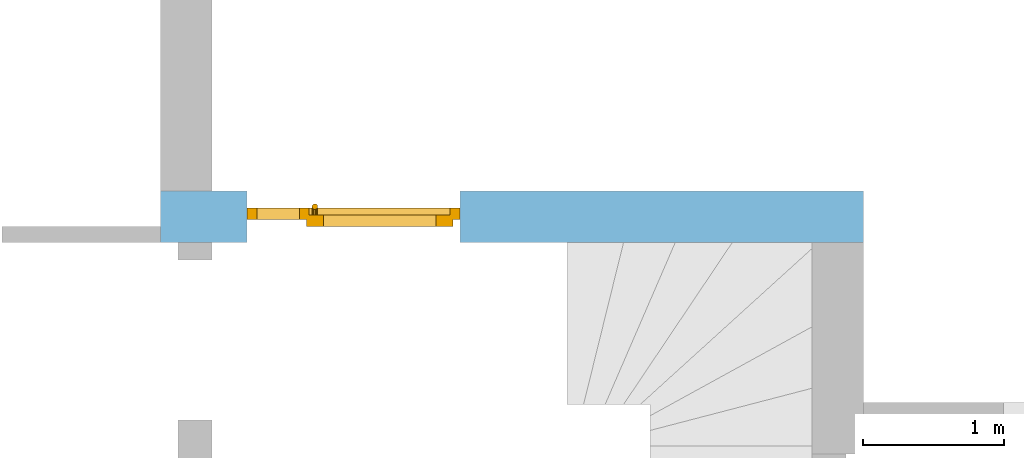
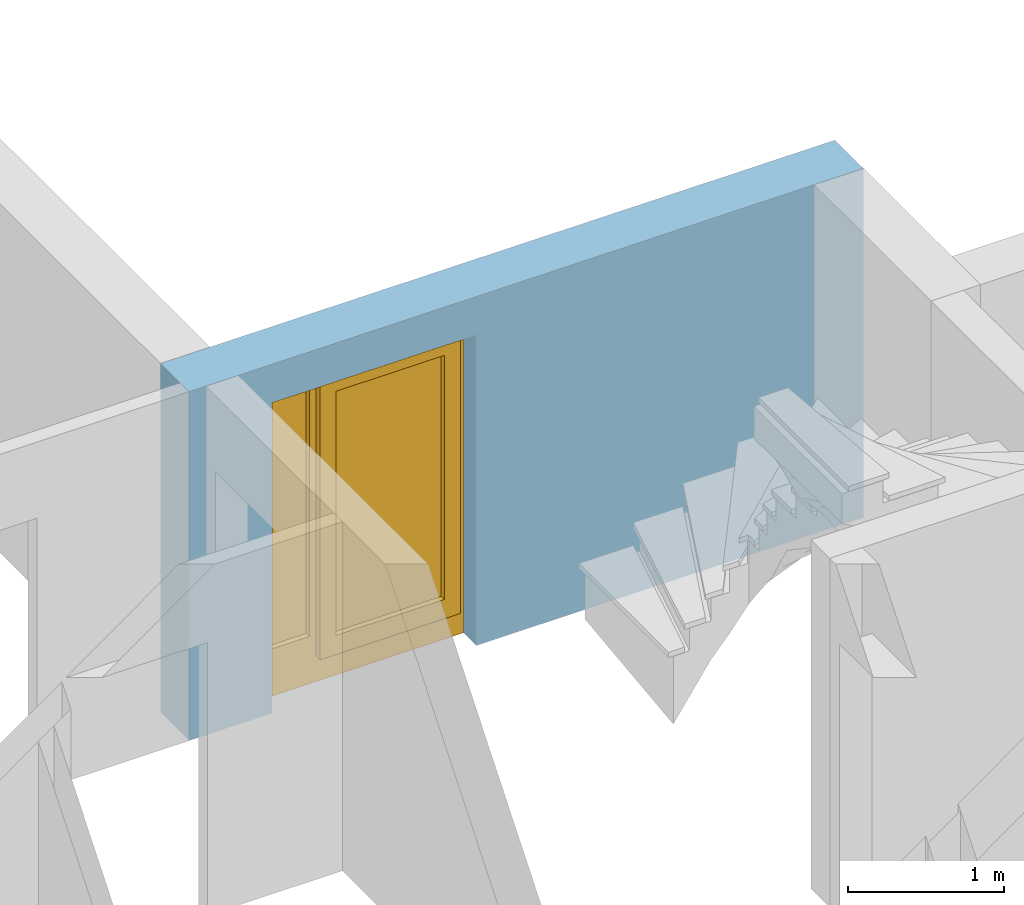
# One storey, part 20 of 41: 1 door, 1 opening, plus 1 element that does not belong to this part.
"""IFC2X3 building model written with IfcOpenShell, lengths in millimetres."""

from ifc_helpers import new_model, entity, si_unit, converted_unit, frame, frame_2d, origin, origin_with_axes, place, context, subcontext, project, spatial, rectangle, extrude, faceted_brep, material, layer, layer_set, layer_usage, type_object, element, fill, save


model = new_model("IFC2X3")

# Units and contexts
model_context = context("Model", 3, precision=1e-05, world=origin())
body_context = subcontext(model_context, "Body", "Model", "MODEL_VIEW")
ifc_project = project(units=[si_unit("LENGTHUNIT", "METRE", prefix="MILLI"), converted_unit("PLANEANGLEUNIT", "DEGREE", entity("IfcPlaneAngleMeasure", 0.0174532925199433), si_unit("PLANEANGLEUNIT", "RADIAN"), dimensions=[0, 0, 0, 0, 0, 0, 0]), si_unit("AREAUNIT", "SQUARE_METRE"), si_unit("VOLUMEUNIT", "CUBIC_METRE")], contexts=[model_context])

# Building, storey
building_placement = place(None, origin())
building = spatial("IfcBuilding", under=ifc_project, at=building_placement, Name="Gebäude", CompositionType="ELEMENT")
storey_placement = place(building_placement, frame((0.0, 0.0, -200.0), z_axis=(0.0, 0.0, 1.0), x_axis=(1.0, 0.0, 0.0)))
storey = spatial("IfcBuildingStorey", under=building, at=storey_placement, Name="EG.- Grundriss", CompositionType="ELEMENT", Elevation=-200.0)

# Wall, opening, door
ifc_material_1 = material(Name="Poroton")
ifc_layer = layer(ifc_material_1, 365.0000000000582)
ifc_layer_set = layer_set([ifc_layer])
ifc_layer_usage = layer_usage(ifc_layer_set, "AXIS2", "POSITIVE", 0.0)
wall_placement = place(storey_placement, frame((164367.7928067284, 136274.8877324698, 0.0), z_axis=(0.0, 0.0, 1.0), x_axis=(-1.0, 0.0, 0.0)))
wall = element("IfcWallStandardCase", 1, at=wall_placement, inside=storey, material=ifc_layer_usage, Name="<Unnamed Element>", context=body_context, shape_type="SweptSolid", body=[
    extrude(rectangle(XDim=4990.000000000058, YDim=365.0000000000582, at=frame_2d((2495.000000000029, 182.5000000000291), x_axis=(1.0, 0.0))), origin_with_axes(), (0.0, 0.0, 1.0), 2730.0),
])
opening_placement = place(wall_placement, frame((2865.000000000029, 0.0, 0.0), z_axis=(0.0, 1.0, 0.0), x_axis=(0.0, 0.0, 1.0)))
opening = element("IfcOpeningElement", 2, at=opening_placement, cuts=wall, Name="Türöffnung", ObjectType="Opening", context=body_context, shape_type="SweptSolid", body=[
    extrude(rectangle(XDim=2430.0, YDim=1510.0, at=frame_2d((1215.0, 755.0), x_axis=(1.0, 0.0))), origin_with_axes(), (0.0, 0.0, 1.0), 365.0000000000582),
])
ifc_material_2 = material()
door_style = type_object("IfcDoorStyle", Name="Tür", ConstructionType="NOTDEFINED", OperationType="USERDEFINED", ParameterTakesPrecedence=False, Sizeable=False)
door_placement = place(opening_placement, frame((0.0, 0.0, 0.0), z_axis=(1.0, 0.0, 0.0), x_axis=(0.0, 1.0, 0.0)))
door = element("IfcDoor", 3, at=door_placement, inside=storey, type_object=door_style, material=ifc_material_2, Name="Tür", OverallHeight=2430.0, OverallWidth=1510.0, context=body_context, shape_type="Brep", body=[
    faceted_brep([(9.797174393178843e-15, 200.0000000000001, 2430.0), (9.797174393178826e-15, 200.0, -2.449293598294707e-15), (70.00000000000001, 200.0, -2.449293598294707e-15), (70.00000000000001, 200.0000000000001, 2430.0), (0.0, 120.0, 2.449293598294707e-15), (1.740327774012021e-29, 120.0000000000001, 2430.0), (70.0, 120.0000000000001, 2430.0), (70.0, 120.0, 2.449293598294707e-15), (9.797174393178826e-15, 200.0, -2.449293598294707e-15), (9.797174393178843e-15, 200.0000000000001, 2430.0), (1.740327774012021e-29, 120.0000000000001, 2430.0), (0.0, 120.0, 2.449293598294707e-15), (70.00000000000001, 200.0, -2.449293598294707e-15), (9.797174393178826e-15, 200.0, -2.449293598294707e-15), (0.0, 120.0, 2.449293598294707e-15), (70.0, 120.0, 2.449293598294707e-15), (70.00000000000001, 200.0000000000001, 2430.0), (70.00000000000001, 200.0, -2.449293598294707e-15), (70.0, 120.0, 2.449293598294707e-15), (70.0, 120.0000000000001, 2430.0), (9.797174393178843e-15, 200.0000000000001, 2430.0), (70.00000000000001, 200.0000000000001, 2430.0), (70.0, 120.0000000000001, 2430.0), (1.740327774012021e-29, 120.0000000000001, 2430.0)], [[[0, 1, 2, 3]], [[4, 5, 6, 7]], [[8, 9, 10, 11]], [[12, 13, 14, 15]], [[16, 17, 18, 19]], [[20, 21, 22, 23]]], orient=[[False], [False], [False], [False], [False], [False]]),
    faceted_brep([(1440.0, 200.0, 2430.0), (1440.0, 199.9999999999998, -2.449293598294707e-15), (1510.0, 199.9999999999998, -2.449293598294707e-15), (1510.0, 199.9999999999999, 2430.0), (1440.0, 119.9999999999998, 2.449293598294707e-15), (1440.0, 120.0, 2430.0), (1510.0, 120.0, 2430.0), (1510.0, 119.9999999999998, 2.449293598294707e-15), (1440.0, 199.9999999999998, -2.449293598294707e-15), (1440.0, 200.0, 2430.0), (1440.0, 120.0, 2430.0), (1440.0, 119.9999999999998, 2.449293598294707e-15), (1510.0, 199.9999999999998, -2.449293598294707e-15), (1440.0, 199.9999999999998, -2.449293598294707e-15), (1440.0, 119.9999999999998, 2.449293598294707e-15), (1510.0, 119.9999999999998, 2.449293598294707e-15), (1510.0, 199.9999999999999, 2430.0), (1510.0, 199.9999999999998, -2.449293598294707e-15), (1510.0, 119.9999999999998, 2.449293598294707e-15), (1510.0, 120.0, 2430.0), (1440.0, 200.0, 2430.0), (1510.0, 199.9999999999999, 2430.0), (1510.0, 120.0, 2430.0), (1440.0, 120.0, 2430.0)], [[[0, 1, 2, 3]], [[4, 5, 6, 7]], [[8, 9, 10, 11]], [[12, 13, 14, 15]], [[16, 17, 18, 19]], [[20, 21, 22, 23]]], orient=[[False], [False], [False], [False], [False], [False]]),
    faceted_brep([(70.00000000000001, 200.0, 220.0), (70.00000000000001, 200.0, -2.449293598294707e-15), (1440.0, 199.9999999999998, -2.449293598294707e-15), (1440.0, 199.9999999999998, 220.0), (70.0, 120.0, 2.449293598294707e-15), (70.0, 120.0, 220.0), (1440.0, 119.9999999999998, 220.0), (1440.0, 119.9999999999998, 2.449293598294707e-15), (70.00000000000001, 200.0, -2.449293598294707e-15), (70.00000000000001, 200.0, 220.0), (70.0, 120.0, 220.0), (70.0, 120.0, 2.449293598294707e-15), (1440.0, 199.9999999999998, -2.449293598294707e-15), (70.00000000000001, 200.0, -2.449293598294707e-15), (70.0, 120.0, 2.449293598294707e-15), (1440.0, 119.9999999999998, 2.449293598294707e-15), (1440.0, 199.9999999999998, 220.0), (1440.0, 199.9999999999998, -2.449293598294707e-15), (1440.0, 119.9999999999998, 2.449293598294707e-15), (1440.0, 119.9999999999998, 220.0), (70.00000000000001, 200.0, 220.0), (1440.0, 199.9999999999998, 220.0), (1440.0, 119.9999999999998, 220.0), (70.0, 120.0, 220.0)], [[[0, 1, 2, 3]], [[4, 5, 6, 7]], [[8, 9, 10, 11]], [[12, 13, 14, 15]], [[16, 17, 18, 19]], [[20, 21, 22, 23]]], orient=[[False], [False], [False], [False], [False], [False]]),
    faceted_brep([(70.00000000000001, 200.0000000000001, 2430.000000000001), (70.00000000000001, 200.0000000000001, 2360.000000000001), (1440.0, 200.0, 2360.000000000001), (1440.0, 200.0, 2430.000000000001), (70.0, 120.0000000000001, 2360.000000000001), (70.0, 120.0000000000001, 2430.000000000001), (1440.0, 120.0, 2430.000000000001), (1440.0, 120.0, 2360.000000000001), (70.00000000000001, 200.0000000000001, 2360.000000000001), (70.00000000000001, 200.0000000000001, 2430.000000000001), (70.0, 120.0000000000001, 2430.000000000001), (70.0, 120.0000000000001, 2360.000000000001), (1440.0, 200.0, 2360.000000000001), (70.00000000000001, 200.0000000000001, 2360.000000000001), (70.0, 120.0000000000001, 2360.000000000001), (1440.0, 120.0, 2360.000000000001), (1440.0, 200.0, 2430.000000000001), (1440.0, 200.0, 2360.000000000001), (1440.0, 120.0, 2360.000000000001), (1440.0, 120.0, 2430.000000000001), (70.00000000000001, 200.0000000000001, 2430.000000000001), (1440.0, 200.0, 2430.000000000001), (1440.0, 120.0, 2430.000000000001), (70.0, 120.0000000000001, 2430.000000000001)], [[[0, 1, 2, 3]], [[4, 5, 6, 7]], [[8, 9, 10, 11]], [[12, 13, 14, 15]], [[16, 17, 18, 19]], [[20, 21, 22, 23]]], orient=[[False], [False], [False], [False], [False], [False]]),
    faceted_brep([(1070.0, 200.0, 2360.0), (1070.0, 199.9999999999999, 220.0), (1140.0, 199.9999999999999, 220.0), (1140.0, 200.0, 2360.0), (1070.0, 119.9999999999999, 220.0), (1070.0, 120.0, 2360.0), (1140.0, 120.0, 2360.0), (1140.0, 119.9999999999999, 220.0), (1070.0, 199.9999999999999, 220.0), (1070.0, 200.0, 2360.0), (1070.0, 120.0, 2360.0), (1070.0, 119.9999999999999, 220.0), (1140.0, 199.9999999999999, 220.0), (1070.0, 199.9999999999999, 220.0), (1070.0, 119.9999999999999, 220.0), (1140.0, 119.9999999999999, 220.0), (1140.0, 200.0, 2360.0), (1140.0, 199.9999999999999, 220.0), (1140.0, 119.9999999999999, 220.0), (1140.0, 120.0, 2360.0), (1070.0, 200.0, 2360.0), (1140.0, 200.0, 2360.0), (1140.0, 120.0, 2360.0), (1070.0, 120.0, 2360.0)], [[[0, 1, 2, 3]], [[4, 5, 6, 7]], [[8, 9, 10, 11]], [[12, 13, 14, 15]], [[16, 17, 18, 19]], [[20, 21, 22, 23]]], orient=[[False], [False], [False], [False], [False], [False]]),
    faceted_brep([(50.00000000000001, 250.0000000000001, 2380.0), (50.00000000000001, 250.0, 200.0), (170.0, 250.0, 200.0), (170.0, 250.0000000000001, 2380.0), (50.00000000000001, 170.0, 200.0), (50.00000000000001, 170.0000000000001, 2380.0), (170.0, 170.0000000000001, 2380.0), (170.0, 170.0, 200.0), (50.00000000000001, 250.0, 200.0), (50.00000000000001, 250.0000000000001, 2380.0), (50.00000000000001, 170.0000000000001, 2380.0), (50.00000000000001, 170.0, 200.0), (170.0, 250.0, 200.0), (50.00000000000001, 250.0, 200.0), (50.00000000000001, 170.0, 200.0), (170.0, 170.0, 200.0), (170.0, 250.0000000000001, 2380.0), (170.0, 250.0, 200.0), (170.0, 170.0, 200.0), (170.0, 170.0000000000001, 2380.0), (50.00000000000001, 250.0000000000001, 2380.0), (170.0, 250.0000000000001, 2380.0), (170.0, 170.0000000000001, 2380.0), (50.00000000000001, 170.0000000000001, 2380.0)], [[[0, 1, 2, 3]], [[4, 5, 6, 7]], [[8, 9, 10, 11]], [[12, 13, 14, 15]], [[16, 17, 18, 19]], [[20, 21, 22, 23]]], orient=[[False], [False], [False], [False], [False], [False]]),
    faceted_brep([(970.0, 250.0, 2380.0), (970.0, 249.9999999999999, 200.0), (1090.0, 249.9999999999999, 200.0), (1090.0, 250.0, 2380.0), (970.0, 169.9999999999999, 200.0), (970.0, 170.0, 2380.0), (1090.0, 170.0, 2380.0), (1090.0, 169.9999999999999, 200.0), (970.0, 249.9999999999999, 200.0), (970.0, 250.0, 2380.0), (970.0, 170.0, 2380.0), (970.0, 169.9999999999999, 200.0), (1090.0, 249.9999999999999, 200.0), (970.0, 249.9999999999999, 200.0), (970.0, 169.9999999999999, 200.0), (1090.0, 169.9999999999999, 200.0), (1090.0, 250.0, 2380.0), (1090.0, 249.9999999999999, 200.0), (1090.0, 169.9999999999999, 200.0), (1090.0, 170.0, 2380.0), (970.0, 250.0, 2380.0), (1090.0, 250.0, 2380.0), (1090.0, 170.0, 2380.0), (970.0, 170.0, 2380.0)], [[[0, 1, 2, 3]], [[4, 5, 6, 7]], [[8, 9, 10, 11]], [[12, 13, 14, 15]], [[16, 17, 18, 19]], [[20, 21, 22, 23]]], orient=[[False], [False], [False], [False], [False], [False]]),
    faceted_brep([(170.0, 250.0, 350.0), (170.0, 250.0, 200.0), (970.0, 249.9999999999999, 200.0), (970.0, 249.9999999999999, 350.0), (170.0, 170.0, 200.0), (170.0, 170.0, 350.0), (970.0, 169.9999999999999, 350.0), (970.0, 169.9999999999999, 200.0), (170.0, 250.0, 200.0), (170.0, 250.0, 350.0), (170.0, 170.0, 350.0), (170.0, 170.0, 200.0), (970.0, 249.9999999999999, 200.0), (170.0, 250.0, 200.0), (170.0, 170.0, 200.0), (970.0, 169.9999999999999, 200.0), (970.0, 249.9999999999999, 350.0), (970.0, 249.9999999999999, 200.0), (970.0, 169.9999999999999, 200.0), (970.0, 169.9999999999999, 350.0), (170.0, 250.0, 350.0), (970.0, 249.9999999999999, 350.0), (970.0, 169.9999999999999, 350.0), (170.0, 170.0, 350.0)], [[[0, 1, 2, 3]], [[4, 5, 6, 7]], [[8, 9, 10, 11]], [[12, 13, 14, 15]], [[16, 17, 18, 19]], [[20, 21, 22, 23]]], orient=[[False], [False], [False], [False], [False], [False]]),
    faceted_brep([(170.0, 250.0000000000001, 2380.0), (170.0, 250.0000000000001, 2260.0), (970.0, 250.0, 2260.0), (970.0, 250.0, 2380.0), (170.0, 170.0000000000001, 2260.0), (170.0, 170.0000000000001, 2380.0), (970.0, 170.0, 2380.0), (970.0, 170.0, 2260.0), (170.0, 250.0000000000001, 2260.0), (170.0, 250.0000000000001, 2380.0), (170.0, 170.0000000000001, 2380.0), (170.0, 170.0000000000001, 2260.0), (970.0, 250.0, 2260.0), (170.0, 250.0000000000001, 2260.0), (170.0, 170.0000000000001, 2260.0), (970.0, 170.0, 2260.0), (970.0, 250.0, 2380.0), (970.0, 250.0, 2260.0), (970.0, 170.0, 2260.0), (970.0, 170.0, 2380.0), (170.0, 250.0000000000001, 2380.0), (970.0, 250.0, 2380.0), (970.0, 170.0, 2380.0), (170.0, 170.0000000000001, 2380.0)], [[[0, 1, 2, 3]], [[4, 5, 6, 7]], [[8, 9, 10, 11]], [[12, 13, 14, 15]], [[16, 17, 18, 19]], [[20, 21, 22, 23]]], orient=[[False], [False], [False], [False], [False], [False]]),
    faceted_brep([(1050.0, 170.0, 1920.0), (1047.320508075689, 170.0, 1930.0), (1040.0, 170.0, 1937.320508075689), (1030.0, 170.0, 1940.0), (1020.0, 170.0, 1937.320508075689), (1012.679491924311, 170.0, 1930.0), (1010.0, 170.0, 1920.0), (1012.679491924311, 170.0, 1910.0), (1020.0, 170.0, 1902.679491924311), (1030.0, 170.0, 1900.0), (1040.0, 170.0, 1902.679491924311), (1047.320508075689, 170.0, 1910.0), (1050.0, 170.0, 1920.0), (1050.0, 110.0, 1920.0), (1047.320508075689, 99.99999999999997, 1930.0), (1047.320508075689, 170.0, 1930.0), (1047.320508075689, 170.0, 1930.0), (1047.320508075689, 99.99999999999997, 1930.0), (1040.0, 92.67949192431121, 1937.320508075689), (1040.0, 170.0, 1937.320508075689), (1040.0, 170.0, 1937.320508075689), (1040.0, 92.67949192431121, 1937.320508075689), (1030.0, 89.99999999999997, 1940.0), (1030.0, 170.0, 1940.0), (1030.0, 170.0, 1940.0), (1030.0, 89.99999999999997, 1940.0), (1020.0, 92.67949192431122, 1937.320508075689), (1020.0, 170.0, 1937.320508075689), (1020.0, 170.0, 1937.320508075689), (1020.0, 92.67949192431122, 1937.320508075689), (1012.679491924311, 99.99999999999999, 1930.0), (1012.679491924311, 170.0, 1930.0), (1012.679491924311, 170.0, 1930.0), (1012.679491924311, 99.99999999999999, 1930.0), (1010.0, 110.0, 1920.0), (1010.0, 170.0, 1920.0), (1010.0, 170.0, 1920.0), (1010.0, 110.0, 1920.0), (1012.679491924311, 120.0, 1910.0), (1012.679491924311, 170.0, 1910.0), (1012.679491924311, 170.0, 1910.0), (1012.679491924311, 120.0, 1910.0), (1020.0, 127.3205080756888, 1902.679491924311), (1020.0, 170.0, 1902.679491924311), (1020.0, 170.0, 1902.679491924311), (1020.0, 127.3205080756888, 1902.679491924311), (1030.0, 130.0, 1900.0), (1030.0, 170.0, 1900.0), (1030.0, 170.0, 1900.0), (1030.0, 130.0, 1900.0), (1040.0, 127.3205080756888, 1902.679491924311), (1040.0, 170.0, 1902.679491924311), (1040.0, 170.0, 1902.679491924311), (1040.0, 127.3205080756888, 1902.679491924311), (1047.320508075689, 120.0, 1910.0), (1047.320508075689, 170.0, 1910.0), (1047.320508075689, 170.0, 1910.0), (1047.320508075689, 120.0, 1910.0), (1050.0, 110.0, 1920.0), (1050.0, 170.0, 1920.0), (1050.0, 110.0, 1920.0), (1050.0, 109.9999999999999, 620.0), (1047.320508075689, 99.99999999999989, 610.0), (1047.320508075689, 99.99999999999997, 1930.0), (1047.320508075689, 99.99999999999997, 1930.0), (1047.320508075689, 99.99999999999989, 610.0), (1040.0, 92.67949192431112, 602.6794919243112), (1040.0, 92.67949192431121, 1937.320508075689), (1040.0, 92.67949192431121, 1937.320508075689), (1040.0, 92.67949192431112, 602.6794919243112), (1030.0, 89.99999999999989, 600.0), (1030.0, 89.99999999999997, 1940.0), (1030.0, 89.99999999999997, 1940.0), (1030.0, 89.99999999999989, 600.0), (1020.0, 92.67949192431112, 602.6794919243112), (1020.0, 92.67949192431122, 1937.320508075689), (1020.0, 92.67949192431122, 1937.320508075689), (1020.0, 92.67949192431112, 602.6794919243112), (1012.679491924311, 99.99999999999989, 610.0), (1012.679491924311, 99.99999999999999, 1930.0), (1012.679491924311, 99.99999999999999, 1930.0), (1012.679491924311, 99.99999999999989, 610.0), (1010.0, 109.9999999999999, 620.0), (1010.0, 110.0, 1920.0), (1010.0, 110.0, 1920.0), (1010.0, 109.9999999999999, 620.0), (1012.679491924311, 119.9999999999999, 630.0), (1012.679491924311, 120.0, 1910.0), (1012.679491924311, 120.0, 1910.0), (1012.679491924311, 119.9999999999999, 630.0), (1020.0, 127.3205080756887, 637.3205080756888), (1020.0, 127.3205080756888, 1902.679491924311), (1020.0, 127.3205080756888, 1902.679491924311), (1020.0, 127.3205080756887, 637.3205080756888), (1030.0, 129.9999999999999, 640.0), (1030.0, 130.0, 1900.0), (1030.0, 130.0, 1900.0), (1030.0, 129.9999999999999, 640.0), (1040.0, 127.3205080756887, 637.3205080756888), (1040.0, 127.3205080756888, 1902.679491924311), (1040.0, 127.3205080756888, 1902.679491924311), (1040.0, 127.3205080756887, 637.3205080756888), (1047.320508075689, 119.9999999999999, 630.0), (1047.320508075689, 120.0, 1910.0), (1047.320508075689, 120.0, 1910.0), (1047.320508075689, 119.9999999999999, 630.0), (1050.0, 109.9999999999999, 620.0), (1050.0, 110.0, 1920.0), (1050.0, 169.9999999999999, 620.0), (1047.320508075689, 169.9999999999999, 630.0), (1040.0, 169.9999999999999, 637.3205080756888), (1030.0, 169.9999999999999, 640.0), (1020.0, 169.9999999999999, 637.3205080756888), (1012.679491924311, 169.9999999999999, 630.0), (1010.0, 169.9999999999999, 620.0), (1012.679491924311, 169.9999999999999, 610.0), (1020.0, 169.9999999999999, 602.6794919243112), (1030.0, 169.9999999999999, 600.0), (1040.0, 169.9999999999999, 602.6794919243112), (1047.320508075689, 169.9999999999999, 610.0), (1050.0, 109.9999999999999, 620.0), (1050.0, 169.9999999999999, 620.0), (1047.320508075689, 169.9999999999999, 610.0), (1047.320508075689, 99.99999999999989, 610.0), (1047.320508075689, 99.99999999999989, 610.0), (1047.320508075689, 169.9999999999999, 610.0), (1040.0, 169.9999999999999, 602.6794919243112), (1040.0, 92.67949192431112, 602.6794919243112), (1040.0, 92.67949192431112, 602.6794919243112), (1040.0, 169.9999999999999, 602.6794919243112), (1030.0, 169.9999999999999, 600.0), (1030.0, 89.99999999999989, 600.0), (1030.0, 89.99999999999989, 600.0), (1030.0, 169.9999999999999, 600.0), (1020.0, 169.9999999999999, 602.6794919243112), (1020.0, 92.67949192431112, 602.6794919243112), (1020.0, 92.67949192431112, 602.6794919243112), (1020.0, 169.9999999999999, 602.6794919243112), (1012.679491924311, 169.9999999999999, 610.0), (1012.679491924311, 99.99999999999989, 610.0), (1012.679491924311, 99.99999999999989, 610.0), (1012.679491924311, 169.9999999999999, 610.0), (1010.0, 169.9999999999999, 620.0), (1010.0, 109.9999999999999, 620.0), (1010.0, 109.9999999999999, 620.0), (1010.0, 169.9999999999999, 620.0), (1012.679491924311, 169.9999999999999, 630.0), (1012.679491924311, 119.9999999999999, 630.0), (1012.679491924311, 119.9999999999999, 630.0), (1012.679491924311, 169.9999999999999, 630.0), (1020.0, 169.9999999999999, 637.3205080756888), (1020.0, 127.3205080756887, 637.3205080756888), (1020.0, 127.3205080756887, 637.3205080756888), (1020.0, 169.9999999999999, 637.3205080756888), (1030.0, 169.9999999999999, 640.0), (1030.0, 129.9999999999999, 640.0), (1030.0, 129.9999999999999, 640.0), (1030.0, 169.9999999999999, 640.0), (1040.0, 169.9999999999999, 637.3205080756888), (1040.0, 127.3205080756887, 637.3205080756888), (1040.0, 127.3205080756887, 637.3205080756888), (1040.0, 169.9999999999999, 637.3205080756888), (1047.320508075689, 169.9999999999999, 630.0), (1047.320508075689, 119.9999999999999, 630.0), (1047.320508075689, 119.9999999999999, 630.0), (1047.320508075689, 169.9999999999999, 630.0), (1050.0, 169.9999999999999, 620.0), (1050.0, 109.9999999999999, 620.0)], [[[0, 1, 2, 3, 4, 5, 6, 7, 8, 9, 10, 11]], [[12, 13, 14, 15]], [[16, 17, 18, 19]], [[20, 21, 22, 23]], [[24, 25, 26, 27]], [[28, 29, 30, 31]], [[32, 33, 34, 35]], [[36, 37, 38, 39]], [[40, 41, 42, 43]], [[44, 45, 46, 47]], [[48, 49, 50, 51]], [[52, 53, 54, 55]], [[56, 57, 58, 59]], [[60, 61, 62, 63]], [[64, 65, 66, 67]], [[68, 69, 70, 71]], [[72, 73, 74, 75]], [[76, 77, 78, 79]], [[80, 81, 82, 83]], [[84, 85, 86, 87]], [[88, 89, 90, 91]], [[92, 93, 94, 95]], [[96, 97, 98, 99]], [[100, 101, 102, 103]], [[104, 105, 106, 107]], [[108, 109, 110, 111, 112, 113, 114, 115, 116, 117, 118, 119]], [[120, 121, 122, 123]], [[124, 125, 126, 127]], [[128, 129, 130, 131]], [[132, 133, 134, 135]], [[136, 137, 138, 139]], [[140, 141, 142, 143]], [[144, 145, 146, 147]], [[148, 149, 150, 151]], [[152, 153, 154, 155]], [[156, 157, 158, 159]], [[160, 161, 162, 163]], [[164, 165, 166, 167]]], orient=[[False], [False], [False], [False], [False], [False], [False], [False], [False], [False], [False], [False], [False], [False], [False], [False], [False], [False], [False], [False], [False], [False], [False], [False], [False], [False], [False], [False], [False], [False], [False], [False], [False], [False], [False], [False], [False], [False]]),
    faceted_brep([(1140.0, 199.9999999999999, 370.0), (1140.0, 199.9999999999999, 220.0), (1440.0, 199.9999999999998, 220.0), (1440.0, 199.9999999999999, 370.0), (1140.0, 119.9999999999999, 220.0), (1140.0, 119.9999999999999, 370.0), (1440.0, 119.9999999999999, 370.0), (1440.0, 119.9999999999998, 220.0), (1140.0, 199.9999999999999, 220.0), (1140.0, 199.9999999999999, 370.0), (1140.0, 119.9999999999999, 370.0), (1140.0, 119.9999999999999, 220.0), (1440.0, 199.9999999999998, 220.0), (1140.0, 199.9999999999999, 220.0), (1140.0, 119.9999999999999, 220.0), (1440.0, 119.9999999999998, 220.0), (1440.0, 199.9999999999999, 370.0), (1440.0, 199.9999999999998, 220.0), (1440.0, 119.9999999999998, 220.0), (1440.0, 119.9999999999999, 370.0), (1140.0, 199.9999999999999, 370.0), (1440.0, 199.9999999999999, 370.0), (1440.0, 119.9999999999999, 370.0), (1140.0, 119.9999999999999, 370.0)], [[[0, 1, 2, 3]], [[4, 5, 6, 7]], [[8, 9, 10, 11]], [[12, 13, 14, 15]], [[16, 17, 18, 19]], [[20, 21, 22, 23]]], orient=[[False], [False], [False], [False], [False], [False]]),
    faceted_brep([(170.0, 210.0, 350.0), (970.0, 209.9999999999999, 350.0), (970.0, 210.0, 2260.0), (170.0, 210.0000000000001, 2260.0), (170.0, 209.0, 350.0), (170.0, 209.0000000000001, 2260.0), (970.0, 209.0, 2260.0), (970.0, 208.9999999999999, 350.0), (170.0, 210.0, 350.0), (170.0, 209.0, 350.0), (970.0, 208.9999999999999, 350.0), (970.0, 209.9999999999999, 350.0), (970.0, 209.9999999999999, 350.0), (970.0, 208.9999999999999, 350.0), (970.0, 209.0, 2260.0), (970.0, 210.0, 2260.0), (970.0, 210.0, 2260.0), (970.0, 209.0, 2260.0), (170.0, 209.0000000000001, 2260.0), (170.0, 210.0000000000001, 2260.0), (170.0, 210.0000000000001, 2260.0), (170.0, 209.0000000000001, 2260.0), (170.0, 209.0, 350.0), (170.0, 210.0, 350.0)], [[[0, 1, 2, 3]], [[4, 5, 6, 7]], [[8, 9, 10, 11]], [[12, 13, 14, 15]], [[16, 17, 18, 19]], [[20, 21, 22, 23]]], orient=[[False], [False], [False], [False], [False], [False]]),
    faceted_brep([(1140.0, 159.9999999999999, 370.0), (1440.0, 159.9999999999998, 370.0), (1440.0, 160.0, 2360.0), (1140.0, 160.0, 2360.0), (1140.0, 158.9999999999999, 370.0), (1140.0, 159.0, 2360.0), (1440.0, 159.0, 2360.0), (1440.0, 158.9999999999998, 370.0), (1140.0, 159.9999999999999, 370.0), (1140.0, 158.9999999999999, 370.0), (1440.0, 158.9999999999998, 370.0), (1440.0, 159.9999999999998, 370.0), (1440.0, 159.9999999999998, 370.0), (1440.0, 158.9999999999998, 370.0), (1440.0, 159.0, 2360.0), (1440.0, 160.0, 2360.0), (1440.0, 160.0, 2360.0), (1440.0, 159.0, 2360.0), (1140.0, 159.0, 2360.0), (1140.0, 160.0, 2360.0), (1140.0, 160.0, 2360.0), (1140.0, 159.0, 2360.0), (1140.0, 158.9999999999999, 370.0), (1140.0, 159.9999999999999, 370.0)], [[[0, 1, 2, 3]], [[4, 5, 6, 7]], [[8, 9, 10, 11]], [[12, 13, 14, 15]], [[16, 17, 18, 19]], [[20, 21, 22, 23]]], orient=[[False], [False], [False], [False], [False], [False]]),
])
fill(opening, door)

save(model, "model.ifc")
